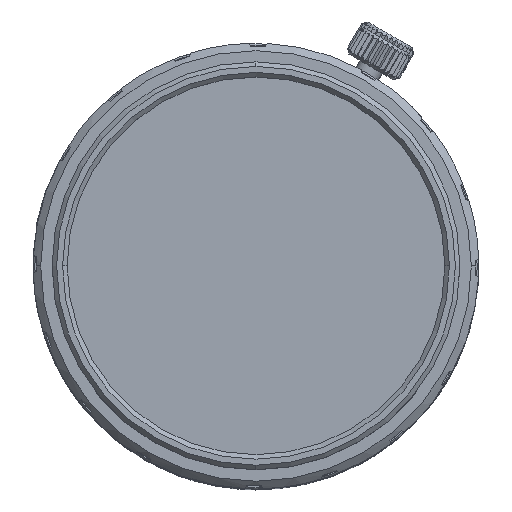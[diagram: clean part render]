
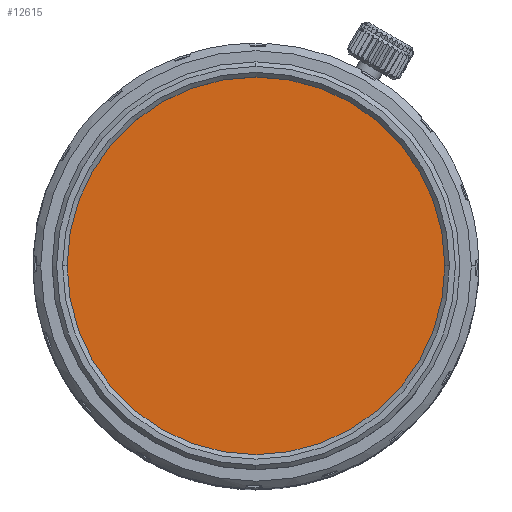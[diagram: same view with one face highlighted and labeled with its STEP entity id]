
A CAD part, top view. The second image highlights one B-rep face of the part: STEP entity #12615.
In plain terms, the highlighted planar face has unit normal (0, 0, 1).
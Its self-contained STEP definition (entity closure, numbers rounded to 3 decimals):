
#1172 = DIRECTION ( 'NONE',  ( 1., 0., 0. ) ) ;
#1257 = CARTESIAN_POINT ( 'NONE',  ( 0., 0., 68.063 ) ) ;
#1345 = EDGE_CURVE ( 'NONE', #8273, #23237, #6690, .T. ) ;
#1405 = EDGE_CURVE ( 'NONE', #23237, #8273, #12121, .T. ) ;
#2909 = FACE_OUTER_BOUND ( 'NONE', #18687, .T. ) ;
#3299 = DIRECTION ( 'NONE',  ( 1., 0., 0. ) ) ;
#4331 = ORIENTED_EDGE ( 'NONE', *, *, #1345, .T. ) ;
#6626 = DIRECTION ( 'NONE',  ( 0., 0., 1. ) ) ;
#6690 = CIRCLE ( 'NONE', #9416, 12.5 ) ;
#8273 = VERTEX_POINT ( 'NONE', #23713 ) ;
#9416 = AXIS2_PLACEMENT_3D ( 'NONE', #25744, #13457, #1172 ) ;
#10648 = PLANE ( 'NONE',  #13306 ) ;
#12121 = CIRCLE ( 'NONE', #13522, 12.5 ) ;
#12615 = ADVANCED_FACE ( 'NONE', ( #2909 ), #10648, .T. ) ;
#13306 = AXIS2_PLACEMENT_3D ( 'NONE', #18904, #6626, #20964 ) ;
#13457 = DIRECTION ( 'NONE',  ( 0., 0., 1. ) ) ;
#13522 = AXIS2_PLACEMENT_3D ( 'NONE', #1257, #15603, #3299 ) ;
#15603 = DIRECTION ( 'NONE',  ( 0., 0., 1. ) ) ;
#17983 = CARTESIAN_POINT ( 'NONE',  ( 12.5, 0., 68.063 ) ) ;
#18687 = EDGE_LOOP ( 'NONE', ( #19040, #4331 ) ) ;
#18904 = CARTESIAN_POINT ( 'NONE',  ( 0., 0., 68.063 ) ) ;
#19040 = ORIENTED_EDGE ( 'NONE', *, *, #1405, .T. ) ;
#20964 = DIRECTION ( 'NONE',  ( 1., 0., 0. ) ) ;
#23237 = VERTEX_POINT ( 'NONE', #17983 ) ;
#23713 = CARTESIAN_POINT ( 'NONE',  ( -12.5, 0., 68.063 ) ) ;
#25744 = CARTESIAN_POINT ( 'NONE',  ( 0., 0., 68.063 ) ) ;
